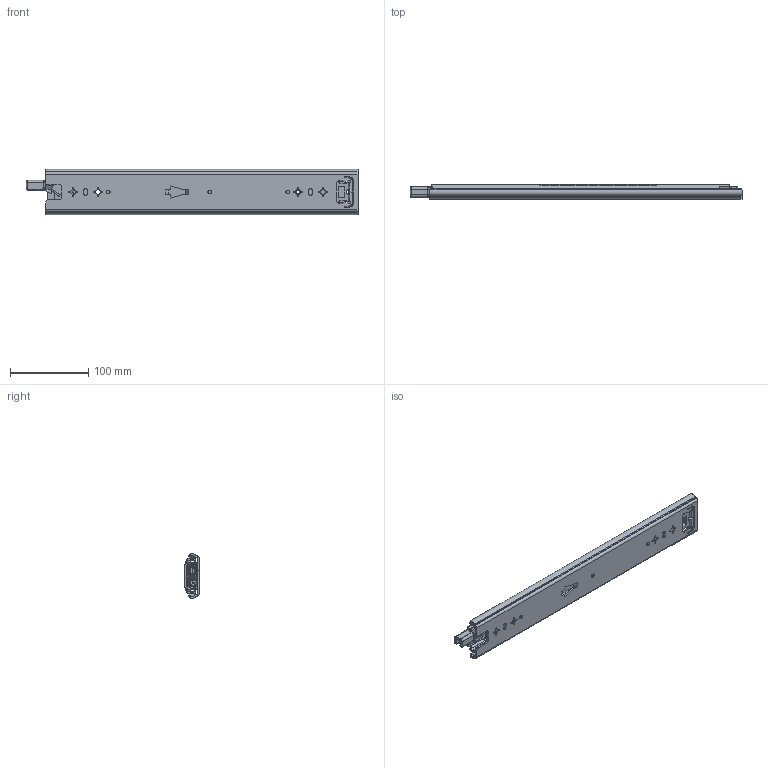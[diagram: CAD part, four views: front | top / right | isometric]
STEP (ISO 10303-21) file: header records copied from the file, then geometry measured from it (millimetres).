
FILE_DESCRIPTION((''),'2;1');
FILE_NAME('KP-57-01ZUZHUANGTU-16YOU_ASM','2023-04-03T',('jishu015'),(''),'PRO/ENGINEER BY PARAMETRIC TECHNOLOGY CORPORATION, 2010280','PRO/ENGINEER BY PARAMETRIC TECHNOLOGY CORPORATION, 2010280','');
FILE_SCHEMA(('CONFIG_CONTROL_DESIGN'));
Length unit declared in the file: millimetre
Products named in the file (21): KP-57-01WEIKE-20___; 1057WEIJIAO___________________; WAIKE__________________ASM; KP-57-01ZHONGGUI-26______; ZHONGGUIPEIJIAN-20___; ZHONGGUISUOKOU-18__; KP-57-01ZHONGGUI-26_______ASM; 1057XIAOZHUJIA11_; 1057-5-6GANZHU1_; 1057XIAOZHUJIA-14GE26_______ASM; KP-57-01NEIGUI-22____; PJ-57-08_________________; DIAOPIAN-11_________________; 50XINSUOKOU-1_________________; 1053-3SBANJI122_______________; JIAO11_______________; KP-57-01NEIGUI-22_____ASM; 1053ZHUTIAO-275______; 53-5-6GANZHU1___; 1053ZHUTIAO-175MM111___ASM; KP-57-01ZUZHUANGTU-16YOU_ASM
Assembly tree (49 placements, depth 3):
  KP-57-01ZUZHUANGTU-16YOU_ASM
    WAIKE__________________ASM
      KP-57-01WEIKE-20___
      1057WEIJIAO___________________
    KP-57-01ZHONGGUI-26_______ASM
      KP-57-01ZHONGGUI-26______
      ZHONGGUIPEIJIAN-20___
      ZHONGGUISUOKOU-18__
    1057XIAOZHUJIA-14GE26_______ASM
      1057XIAOZHUJIA11_
      1057-5-6GANZHU1_  x24
    KP-57-01NEIGUI-22_____ASM
      KP-57-01NEIGUI-22____
      PJ-57-08_________________
      DIAOPIAN-11_________________
      50XINSUOKOU-1_________________
      1053-3SBANJI122_______________
      JIAO11_______________
    1053ZHUTIAO-175MM111___ASM  x2
      1053ZHUTIAO-275______
      53-5-6GANZHU1___
Bounding box: 425.42 x 19 x 57.67 mm (x, y, z)
Volume: 174171.7 mm3; surface area: 187680.2 mm2
Topology: 51 solids, 51 shells, 1578 faces, 4495 edges, 2832 vertices
Faces by surface type: plane 684, cylinder 650, sphere 83, bspline 75, cone 44, extrusion 23, torus 19
Entity records: 53111 total; most frequent: CARTESIAN_POINT 13942, ORIENTED_EDGE 8286, DIRECTION 8015, EDGE_CURVE 4143, AXIS2_PLACEMENT_3D 2752, VERTEX_POINT 2676, VECTOR 2511, LINE 2488
